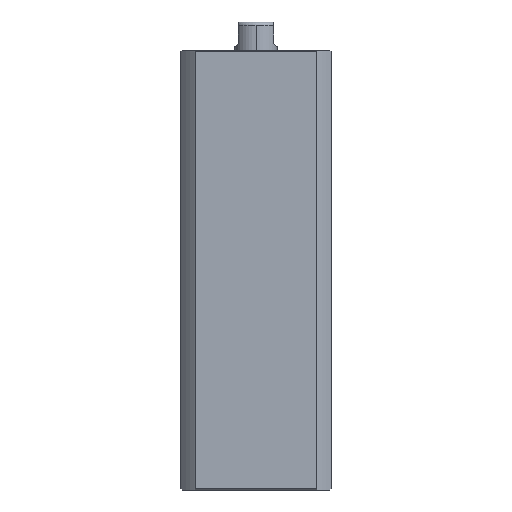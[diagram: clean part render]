
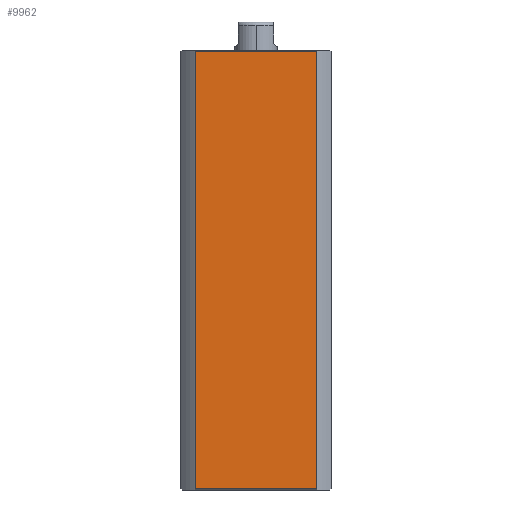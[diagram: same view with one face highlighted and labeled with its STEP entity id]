
A CAD part, left-side view. The second image highlights one B-rep face of the part: STEP entity #9962.
In plain terms, the highlighted planar face has unit normal (-1, 0, 0).
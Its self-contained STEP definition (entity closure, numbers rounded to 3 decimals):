
#149 = EDGE_CURVE ( 'NONE', #8800, #9415, #9131, .T. ) ;
#486 = VECTOR ( 'NONE', #6640, 1000. ) ;
#1035 = EDGE_LOOP ( 'NONE', ( #9786, #2119, #7710, #8970 ) ) ;
#1820 = DIRECTION ( 'NONE',  ( 1., 0., 0. ) ) ;
#1916 = CARTESIAN_POINT ( 'NONE',  ( -21., -16.971, 122.7 ) ) ;
#2066 = CARTESIAN_POINT ( 'NONE',  ( -21., -16.971, -27. ) ) ;
#2119 = ORIENTED_EDGE ( 'NONE', *, *, #2588, .T. ) ;
#2233 = DIRECTION ( 'NONE',  ( 0., 0., -1. ) ) ;
#2588 = EDGE_CURVE ( 'NONE', #6321, #4757, #10058, .T. ) ;
#2613 = VECTOR ( 'NONE', #6633, 1000. ) ;
#3041 = CARTESIAN_POINT ( 'NONE',  ( -21., 16.971, 0.3 ) ) ;
#3092 = LINE ( 'NONE', #5733, #486 ) ;
#4757 = VERTEX_POINT ( 'NONE', #5698 ) ;
#5349 = AXIS2_PLACEMENT_3D ( 'NONE', #9857, #1820, #8046 ) ;
#5698 = CARTESIAN_POINT ( 'NONE',  ( -21., -16.971, 0.3 ) ) ;
#5733 = CARTESIAN_POINT ( 'NONE',  ( -21., 16.971, -27. ) ) ;
#6321 = VERTEX_POINT ( 'NONE', #3041 ) ;
#6575 = FACE_OUTER_BOUND ( 'NONE', #1035, .T. ) ;
#6633 = DIRECTION ( 'NONE',  ( 0., -1., 0. ) ) ;
#6640 = DIRECTION ( 'NONE',  ( 0., 0., 1. ) ) ;
#6707 = VECTOR ( 'NONE', #2233, 1000. ) ;
#7136 = PLANE ( 'NONE',  #5349 ) ;
#7356 = CARTESIAN_POINT ( 'NONE',  ( -21., 21., 0.3 ) ) ;
#7707 = DIRECTION ( 'NONE',  ( 0., 1., 0. ) ) ;
#7710 = ORIENTED_EDGE ( 'NONE', *, *, #8339, .F. ) ;
#7748 = CARTESIAN_POINT ( 'NONE',  ( -21., 21., 122.7 ) ) ;
#7859 = CARTESIAN_POINT ( 'NONE',  ( -21., 16.971, 122.7 ) ) ;
#8046 = DIRECTION ( 'NONE',  ( 0., 1., 0. ) ) ;
#8339 = EDGE_CURVE ( 'NONE', #8800, #4757, #11613, .T. ) ;
#8800 = VERTEX_POINT ( 'NONE', #1916 ) ;
#8970 = ORIENTED_EDGE ( 'NONE', *, *, #149, .T. ) ;
#9131 = LINE ( 'NONE', #7748, #11631 ) ;
#9415 = VERTEX_POINT ( 'NONE', #7859 ) ;
#9786 = ORIENTED_EDGE ( 'NONE', *, *, #10278, .F. ) ;
#9857 = CARTESIAN_POINT ( 'NONE',  ( -21., 21., 123. ) ) ;
#9962 = ADVANCED_FACE ( 'NONE', ( #6575 ), #7136, .F. ) ;
#10058 = LINE ( 'NONE', #7356, #2613 ) ;
#10278 = EDGE_CURVE ( 'NONE', #6321, #9415, #3092, .T. ) ;
#11613 = LINE ( 'NONE', #2066, #6707 ) ;
#11631 = VECTOR ( 'NONE', #7707, 1000. ) ;
